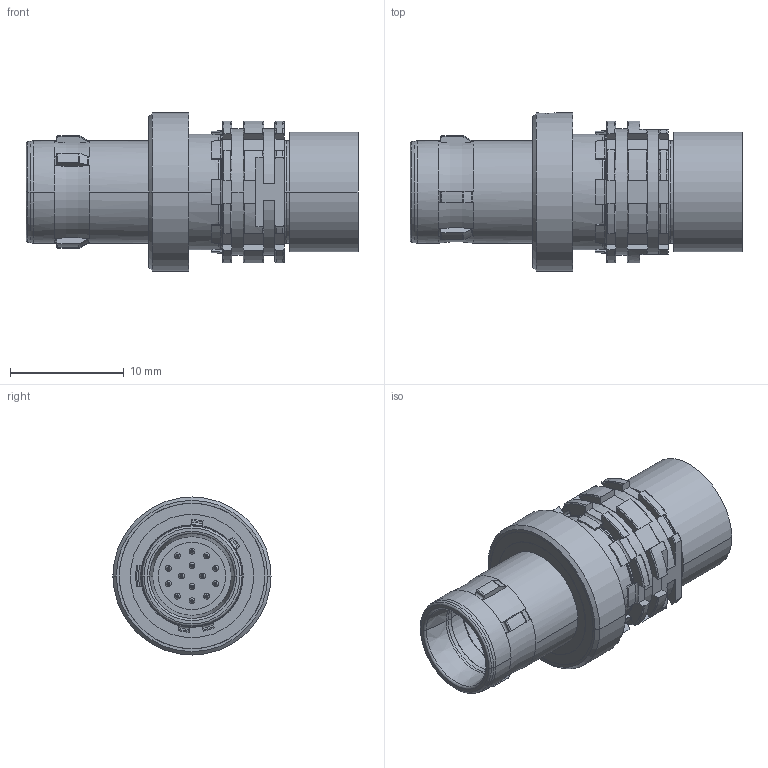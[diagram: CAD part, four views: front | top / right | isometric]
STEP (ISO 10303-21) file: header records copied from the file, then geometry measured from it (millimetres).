
FILE_DESCRIPTION((''),'2;1');
FILE_NAME('00050230_SW0001','2014-02-24T',('SUnterbluemhuber'),(''),'PRO/ENGINEER BY PARAMETRIC TECHNOLOGY CORPORATION, 2013050','PRO/ENGINEER BY PARAMETRIC TECHNOLOGY CORPORATION, 2013050','');
FILE_SCHEMA(('AUTOMOTIVE_DESIGN { 1 0 10303 214 1 1 1 1 }'));
Length unit declared in the file: millimetre
Products named in the file (1): 00050230_SW0001
Bounding box: 29.2 x 13.9 x 13.9 mm (x, y, z)
Volume: 1728.4 mm3; surface area: 3358.5 mm2
Topology: 2 solids, 2 shells, 817 faces, 2067 edges, 1256 vertices
Faces by surface type: cylinder 269, plane 260, torus 133, cone 99, bspline 28, sphere 28
Entity records: 36701 total; most frequent: CARTESIAN_POINT 11368, DIRECTION 4135, ORIENTED_EDGE 4022, EDGE_CURVE 2011, AXIS2_PLACEMENT_3D 1644, VERTEX_POINT 1256, EDGE_LOOP 895, CIRCLE 855
